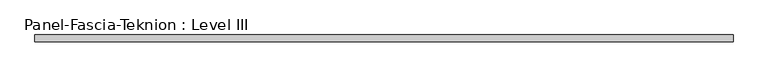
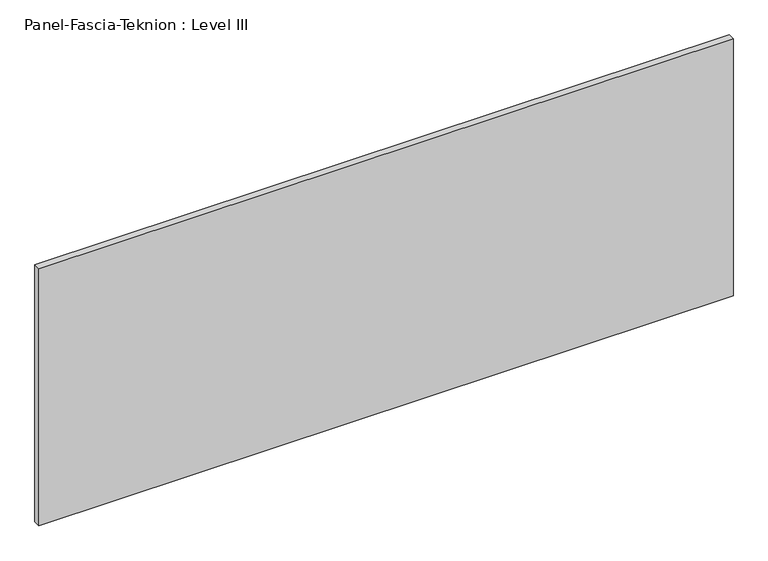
"""IFC4 building model written with IfcOpenShell, lengths in millimetres: proxy geometry, Panel-Fascia-Teknion : Level III."""

from ifc_helpers import new_model, si_unit, frame, origin, place, context, project, spatial, polyline, outline, extrude, source, transform, mapped, element, save


def panel_fascia_teknion_level_iii_769783e0(model_context):
    return source(origin(), model_context, "Body", "SweptSolid", [
        extrude(outline(polyline([(962.6147563, -9.525), (-962.6147562, -9.525), (-962.6147562, 9.525), (962.6147563, 9.525), (962.6147563, -9.525)])), frame((0.0, 0.0, 3.175), z_axis=(0.0, 0.0, 1.0), x_axis=(1.0, 0.0, 0.0)), (0.0, 0.0, 1.0), 753.618),
    ])


if __name__ == "__main__":
    model = new_model("IFC4")
    model_context = context("Model", 3, world=origin())
    ifc_project = project(units=[si_unit("LENGTHUNIT", "METRE", prefix="MILLI")], contexts=[model_context])
    site = spatial("IfcSite", under=ifc_project)
    building = spatial("IfcBuilding", under=site)
    placement = place(None, origin())
    panel_fascia_teknion_level_iii_shape = panel_fascia_teknion_level_iii_769783e0(model_context)
    element("IfcBuildingElementProxy", 1, Name="Panel-Fascia-Teknion : Level III", ObjectType="Panel-Fascia-Teknion : Level III", at=placement, inside=building, context=model_context, shape_type="MappedRepresentation", body=[
        mapped(panel_fascia_teknion_level_iii_shape, transform((0.0, 0.0, 0.0), x_axis=(1.0, 0.0, 0.0), y_axis=(0.0, 1.0, 0.0), z_axis=(0.0, 0.0, 1.0))),
    ])
    save(model, "model.ifc")
